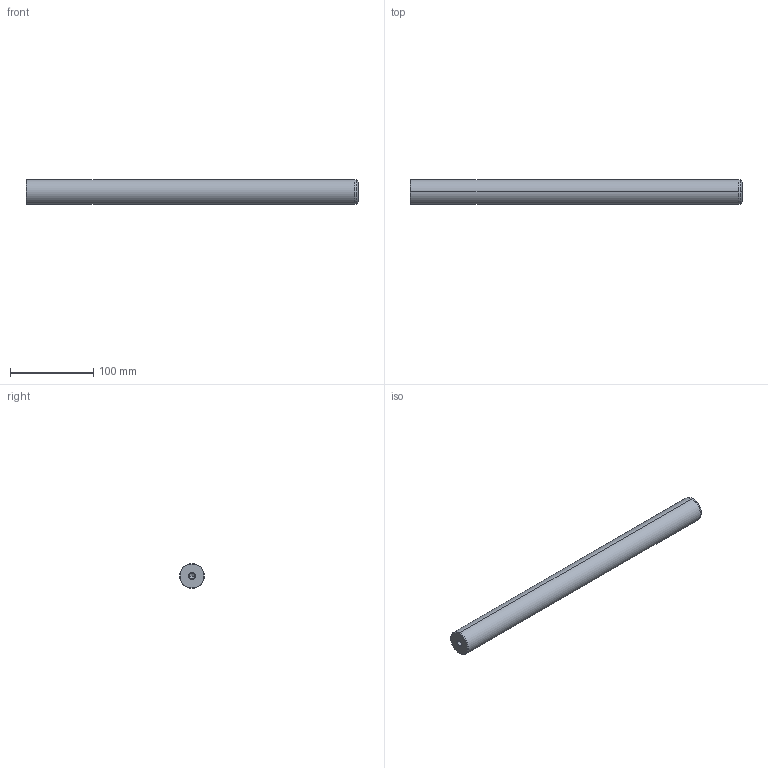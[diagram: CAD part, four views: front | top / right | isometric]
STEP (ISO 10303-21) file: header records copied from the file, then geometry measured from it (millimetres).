
FILE_DESCRIPTION(('CATIA V5 STEP Exchange'),'2;1');
FILE_NAME('C:\Users\Utente\Desktop\IO LAVORO\3D X SITO CF\X SITO\720\720-30x400.stp','2021-01-01T12:27:05+00:00',('none'),('none'),'CATIA Version 5 Release 20 GA (IN-10)','CATIA V5 STEP AP203','none');
FILE_SCHEMA(('CONFIG_CONTROL_DESIGN'));
Length unit declared in the file: millimetre
Products named in the file (1): 720-30x400
Bounding box: 400 x 30 x 30 mm (x, y, z)
Volume: 280712.5 mm3; surface area: 39909.8 mm2
Topology: 1 solids, 1 shells, 22 faces, 62 edges, 40 vertices
Faces by surface type: cone 12, cylinder 6, plane 2, torus 2
Entity records: 806 total; most frequent: CARTESIAN_POINT 229, ORIENTED_EDGE 116, DIRECTION 93, EDGE_CURVE 58, AXIS2_PLACEMENT_3D 54, VERTEX_POINT 40, CIRCLE 31, EDGE_LOOP 24
